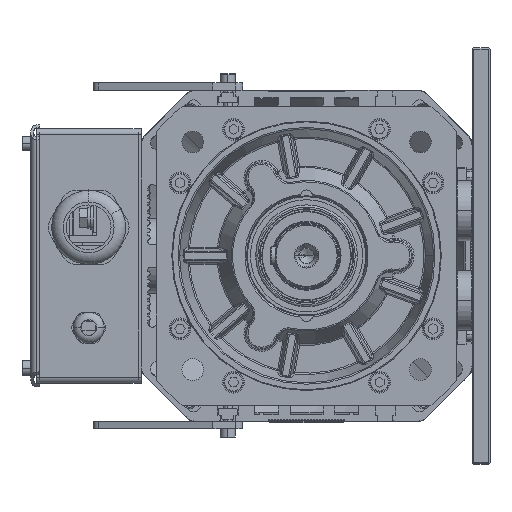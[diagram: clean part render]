
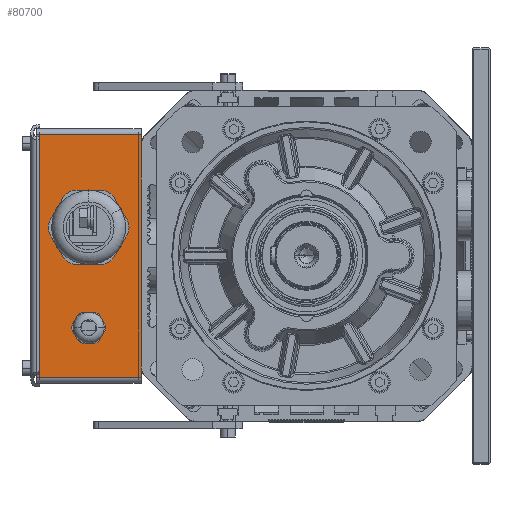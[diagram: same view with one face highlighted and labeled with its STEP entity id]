
A CAD part, left-side view. The second image highlights one B-rep face of the part: STEP entity #80700.
In plain terms, the highlighted planar face has unit normal (-1, 0, 0).
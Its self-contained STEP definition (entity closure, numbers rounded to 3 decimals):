
#78556=DIRECTION('',(0.,0.,1.));
#78557=VECTOR('',#78556,162.);
#78558=CARTESIAN_POINT('',(242.,110.5,-81.));
#78559=LINE('',#78558,#78557);
#78833=CARTESIAN_POINT('',(242.,145.5,-48.));
#78834=DIRECTION('',(-1.,0.,0.));
#78835=DIRECTION('',(0.,1.,0.));
#78836=AXIS2_PLACEMENT_3D('',#78833,#78834,#78835);
#78838=CARTESIAN_POINT('',(242.,145.5,-48.));
#78839=DIRECTION('',(-1.,0.,0.));
#78840=DIRECTION('',(0.,-1.,0.));
#78841=AXIS2_PLACEMENT_3D('',#78838,#78839,#78840);
#78843=CARTESIAN_POINT('',(242.,145.5,19.));
#78844=DIRECTION('',(-1.,0.,0.));
#78845=DIRECTION('',(0.,1.,0.));
#78846=AXIS2_PLACEMENT_3D('',#78843,#78844,#78845);
#78848=CARTESIAN_POINT('',(242.,145.5,19.));
#78849=DIRECTION('',(-1.,0.,0.));
#78850=DIRECTION('',(0.,-1.,0.));
#78851=AXIS2_PLACEMENT_3D('',#78848,#78849,#78850);
#78853=DIRECTION('',(0.,0.,1.));
#78854=VECTOR('',#78853,162.);
#78855=CARTESIAN_POINT('',(242.,180.5,-81.));
#78856=LINE('',#78855,#78854);
#79743=DIRECTION('',(0.,-1.,0.));
#79744=VECTOR('',#79743,70.);
#79745=CARTESIAN_POINT('',(242.,180.5,-81.));
#79746=LINE('',#79745,#79744);
#79763=DIRECTION('',(0.,1.,0.));
#79764=VECTOR('',#79763,70.);
#79765=CARTESIAN_POINT('',(242.,110.5,81.));
#79766=LINE('',#79765,#79764);
#80083=CARTESIAN_POINT('',(242.,155.5,-48.));
#80084=CARTESIAN_POINT('',(242.,135.5,-48.));
#80085=VERTEX_POINT('',#80083);
#80086=VERTEX_POINT('',#80084);
#80087=CARTESIAN_POINT('',(242.,170.5,19.));
#80088=CARTESIAN_POINT('',(242.,120.5,19.));
#80089=VERTEX_POINT('',#80087);
#80090=VERTEX_POINT('',#80088);
#80235=CARTESIAN_POINT('',(242.,110.5,-81.));
#80237=VERTEX_POINT('',#80235);
#80248=CARTESIAN_POINT('',(242.,110.5,81.));
#80250=VERTEX_POINT('',#80248);
#80283=CARTESIAN_POINT('',(242.,180.5,81.));
#80285=VERTEX_POINT('',#80283);
#80296=CARTESIAN_POINT('',(242.,180.5,-81.));
#80298=VERTEX_POINT('',#80296);
#80675=CARTESIAN_POINT('',(242.,110.5,-85.));
#80676=DIRECTION('',(-1.,0.,0.));
#80677=DIRECTION('',(0.,0.,1.));
#80678=AXIS2_PLACEMENT_3D('',#80675,#80676,#80677);
#80679=PLANE('',#80678);
#80681=ORIENTED_EDGE('',*,*,#80680,.F.);
#80682=ORIENTED_EDGE('',*,*,#80482,.F.);
#80684=ORIENTED_EDGE('',*,*,#80683,.F.);
#80685=ORIENTED_EDGE('',*,*,#80542,.T.);
#80686=EDGE_LOOP('',(#80681,#80682,#80684,#80685));
#80687=FACE_OUTER_BOUND('',#80686,.F.);
#80689=ORIENTED_EDGE('',*,*,#80688,.T.);
#80691=ORIENTED_EDGE('',*,*,#80690,.T.);
#80692=EDGE_LOOP('',(#80689,#80691));
#80693=FACE_BOUND('',#80692,.F.);
#80695=ORIENTED_EDGE('',*,*,#80694,.T.);
#80697=ORIENTED_EDGE('',*,*,#80696,.T.);
#80698=EDGE_LOOP('',(#80695,#80697));
#80699=FACE_BOUND('',#80698,.F.);
#80700=ADVANCED_FACE('',(#80687,#80693,#80699),#80679,.T.);
#78837=CIRCLE('',#78836,10.);
#78842=CIRCLE('',#78841,10.);
#78847=CIRCLE('',#78846,25.);
#78852=CIRCLE('',#78851,25.);
#80482=EDGE_CURVE('',#80237,#80250,#78559,.T.);
#80542=EDGE_CURVE('',#80298,#80285,#78856,.T.);
#80680=EDGE_CURVE('',#80250,#80285,#79766,.T.);
#80683=EDGE_CURVE('',#80298,#80237,#79746,.T.);
#80688=EDGE_CURVE('',#80089,#80090,#78847,.T.);
#80690=EDGE_CURVE('',#80090,#80089,#78852,.T.);
#80694=EDGE_CURVE('',#80085,#80086,#78837,.T.);
#80696=EDGE_CURVE('',#80086,#80085,#78842,.T.);
